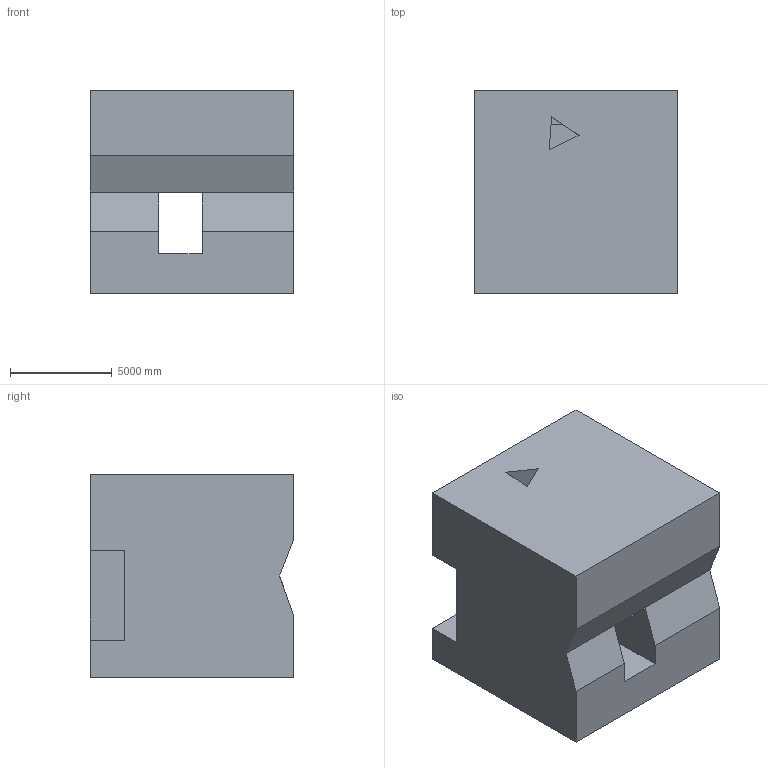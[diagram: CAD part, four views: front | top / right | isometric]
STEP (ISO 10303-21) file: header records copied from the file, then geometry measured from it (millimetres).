
FILE_DESCRIPTION (( 'STEP AP203' ), '1' );
FILE_NAME ('318.STEP', '2022-08-04T14:20:44', ( 'user' ), ( '' ), 'SwSTEP 2.0', 'SolidWorks 2021', '' );
FILE_SCHEMA (( 'CONFIG_CONTROL_DESIGN' ));
Length unit declared in the file: centimetre
Products named in the file (1): 318
Bounding box: 10000 x 10000 x 10000 mm (x, y, z)
Volume: 882804175742.1 mm3; surface area: 710882620 mm2
Topology: 1 solids, 1 shells, 20 faces, 63 edges, 42 vertices
Faces by surface type: plane 20
Entity records: 772 total; most frequent: CARTESIAN_POINT 126, ORIENTED_EDGE 126, DIRECTION 105, EDGE_CURVE 63, VECTOR 63, LINE 63, VERTEX_POINT 42, AXIS2_PLACEMENT_3D 21
